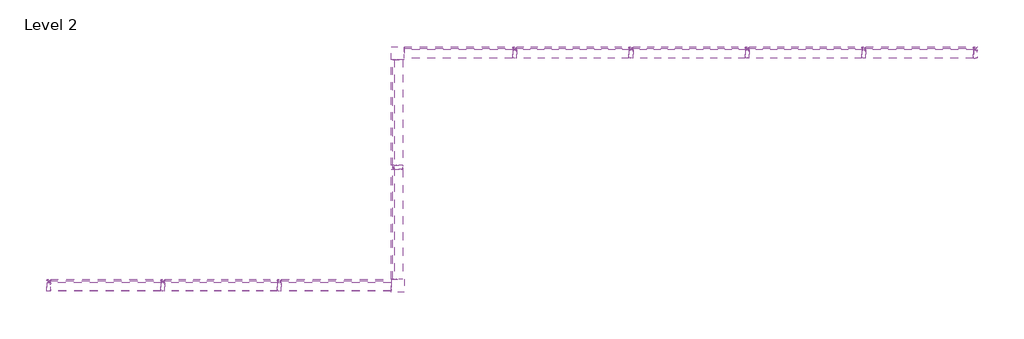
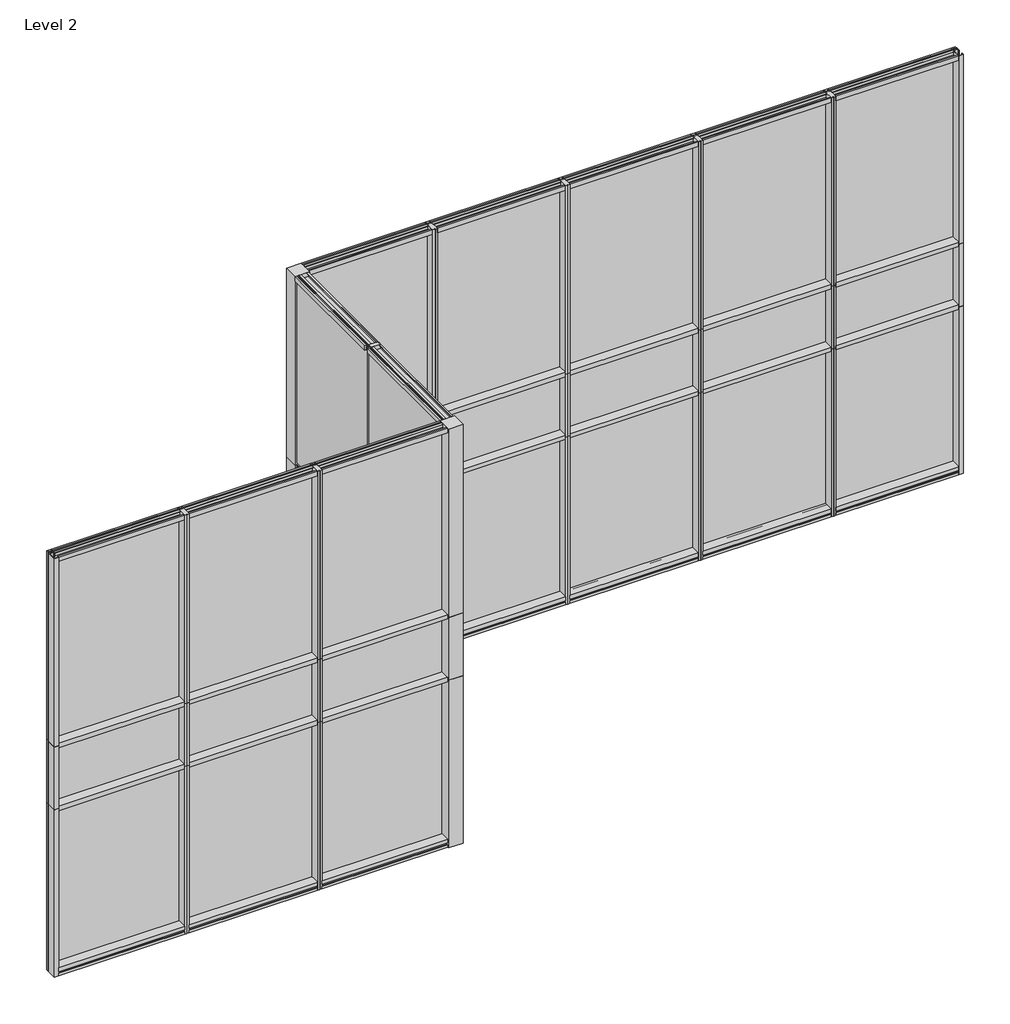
# One storey: 73 members, 30 plates.
"""IFC4 building model written with IfcOpenShell, lengths in millimetres."""

from ifc_helpers import new_model, si_unit, origin, place, context, project, spatial, transform, mapped, element, save
from components import member_aa6b0ad5, member_cb5fe1db, member_a9b10072, member_d3c65e58, member_986474d6, member_3b08af80, rectangular_mullion_3a6611b2, rectangular_mullion_858beba1, rectangular_mullion_c9ef158f, rectangular_mullion_64223f13, rectangular_mullion_937c725f, rectangular_mullion_882669de, rectangular_mullion_6bc6d00b, rectangular_mullion_captured_horizontal_tube_e36badf5, rectangular_mullion_captured_horizontal_tube_9d754ffc, rectangular_mullion_captured_horizontal_tube_6923a6ff, rectangular_mullion_captured_horizontal_tube_73ebac43, rectangular_mullion_captured_horizontal_tube_f31e0b34, rectangular_mullion_captured_open_back_cc8713bb, rectangular_mullion_captured_open_back_95a6e40a, rectangular_mullion_captured_open_back_d715ee20, rectangular_mullion_captured_open_back_de788541, rectangular_mullion_captured_open_back_5af97a0e, rectangular_mullion_captured_open_back_1440805d, rectangular_mullion_captured_open_back_d6f5ffe3, rectangular_mullion_captured_open_back_b7547889, rectangular_mullion_captured_open_back_bbfb2c0f, rectangular_mullion_captured_open_back_40401035, rectangular_mullion_captured_open_back_3d0f3a1e, rectangular_mullion_captured_open_back_60071de4, rectangular_mullion_captured_vertical_stack_a3d0fc89, rectangular_mullion_captured_vertical_stack_e6b217ad, rectangular_mullion_captured_vertical_stack_28bbe6cc, rectangular_mullion_ssg_horizontal_tube_914c9095, rectangular_mullion_ssg_horizontal_tube_d552dfa0, rectangular_mullion_ssg_vertical_stack_41dd6339, rectangular_mullion_ssg_vertical_stack_c531deef, rectangular_mullion_ssg_vertical_stack_b657639e, system_panel_glazed_bad1c57b, system_panel_glazed_a18a3faf, system_panel_glazed_540ba77c, system_panel_glazed_bac47144, system_panel_glazed_1e6a4927, system_panel_glazed_8a131d30, system_panel_glazed_de2e3ea7, system_panel_glazed_4116d66b, system_panel_glazed_8df21279, system_panel_glazed_a648d7df, system_panel_glazed_71094098, system_panel_glazed_069e6351, system_panel_glazed_709e4807, system_panel_glazed_40d013d5, system_panel_glazed_d21a083e, system_panel_glazed_3294a933, system_panel_glazed_46c4b1e2, system_panel_glazed_53a11c7e, system_panel_glazed_89300687, system_panel_glazed_cd5425ed, system_panel_glazed_e6c535d0

model = new_model("IFC4")

# Units and contexts
model_context = context("Model", 3, world=origin())
ifc_project = project(units=[si_unit("LENGTHUNIT", "METRE", prefix="MILLI")], contexts=[model_context])

# Site, building, storey
site = spatial("IfcSite", under=ifc_project)
building = spatial("IfcBuilding", under=site)
storey = spatial("IfcBuildingStorey", under=building, Name="Level 2", Elevation=3048.0)

# Members
placement = place(None, origin())
member_shape = member_aa6b0ad5(model_context)
element("IfcMember", 1, ObjectType="Quad Corner Mullion : 5\" x 5\" Quad Corner", at=placement, inside=storey, context=model_context, shape_type="MappedRepresentation", body=[
    mapped(member_shape, transform((3333.37735, 5420.4369427, 8534.4), x_axis=(0.0, 1.0, 0.0), y_axis=(1.0, 0.0, 0.0), z_axis=(0.0, 0.0, -1.0))),
])
member_2_shape = member_cb5fe1db(model_context)
element("IfcMember", 2, ObjectType="Quad Corner Mullion : 5\" x 5\" Quad Corner", at=placement, inside=storey, context=model_context, shape_type="MappedRepresentation", body=[
    mapped(member_2_shape, transform((3333.37735, 5420.4369427, 6096.0), x_axis=(0.0, 1.0, 0.0), y_axis=(1.0, 0.0, 0.0), z_axis=(0.0, 0.0, -1.0))),
])
member_3_shape = member_a9b10072(model_context)
element("IfcMember", 3, ObjectType="Quad Corner Mullion : 5\" x 5\" Quad Corner", at=placement, inside=storey, context=model_context, shape_type="MappedRepresentation", body=[
    mapped(member_3_shape, transform((3333.37735, 1762.8369427, 6096.0), x_axis=(1.0, 0.0, 0.0), y_axis=(0.0, -1.0, 0.0), z_axis=(0.0, 0.0, -1.0))),
])
member_4_shape = member_d3c65e58(model_context)
element("IfcMember", 4, ObjectType="Quad Corner Mullion : 5\" x 5\" Quad Corner", at=placement, inside=storey, context=model_context, shape_type="MappedRepresentation", body=[
    mapped(member_4_shape, transform((3333.37735, 1762.8369427, 9448.8), x_axis=(1.0, 0.0, 0.0), y_axis=(0.0, -1.0, 0.0), z_axis=(0.0, 0.0, -1.0))),
])
member_5_shape = member_986474d6(model_context)
element("IfcMember", 5, ObjectType="Quad Corner Mullion : 5\" x 5\" Quad Corner", at=placement, inside=storey, context=model_context, shape_type="MappedRepresentation", body=[
    mapped(member_5_shape, transform((3333.37735, 1762.8369427, 8534.4), x_axis=(1.0, 0.0, 0.0), y_axis=(0.0, -1.0, 0.0), z_axis=(0.0, 0.0, -1.0))),
])
member_6_shape = member_3b08af80(model_context)
element("IfcMember", 6, ObjectType="Quad Corner Mullion : 5\" x 5\" Quad Corner", at=placement, inside=storey, context=model_context, shape_type="MappedRepresentation", body=[
    mapped(member_6_shape, transform((3333.37735, 5420.4369427, 9448.8), x_axis=(0.0, 1.0, 0.0), y_axis=(1.0, 0.0, 0.0), z_axis=(0.0, 0.0, -1.0))),
])
rectangular_mullion_shape = rectangular_mullion_3a6611b2(model_context)
element("IfcMember", 7, ObjectType="Rectangular Mullion : Captured Chicken Head Stack", at=placement, inside=storey, context=model_context, shape_type="MappedRepresentation", body=[
    mapped(rectangular_mullion_shape, transform((7064.0377322, 5420.4369427, 6096.0), x_axis=(0.0, 0.0, -1.0), y_axis=(0.0, -1.0, 0.0), z_axis=(-1.0, 0.0, 0.0))),
])
element("IfcMember", 8, ObjectType="Rectangular Mullion : Captured Chicken Head Stack", at=placement, inside=storey, context=model_context, shape_type="MappedRepresentation", body=[
    mapped(rectangular_mullion_shape, transform((5235.2377322, 5420.4369427, 6096.0), x_axis=(0.0, 0.0, -1.0), y_axis=(0.0, -1.0, 0.0), z_axis=(-1.0, 0.0, 0.0))),
])
element("IfcMember", 9, ObjectType="Rectangular Mullion : Captured Chicken Head Stack", at=placement, inside=storey, context=model_context, shape_type="MappedRepresentation", body=[
    mapped(rectangular_mullion_shape, transform((8892.8377322, 5420.4369427, 6096.0), x_axis=(0.0, 0.0, -1.0), y_axis=(0.0, -1.0, 0.0), z_axis=(-1.0, 0.0, 0.0))),
])
element("IfcMember", 10, ObjectType="Rectangular Mullion : Captured Chicken Head Stack", at=placement, inside=storey, context=model_context, shape_type="MappedRepresentation", body=[
    mapped(rectangular_mullion_shape, transform((-292.4520837, 1762.8369427, 6096.0), x_axis=(0.0, 0.0, -1.0), y_axis=(0.0, -1.0, 0.0), z_axis=(-1.0, 0.0, 0.0))),
])
rectangular_mullion_2_shape = rectangular_mullion_858beba1(model_context)
element("IfcMember", 11, ObjectType="Rectangular Mullion : Captured Chicken Head Stack", at=placement, inside=storey, context=model_context, shape_type="MappedRepresentation", body=[
    mapped(rectangular_mullion_2_shape, transform((-2089.5020837, 1762.8369427, 6096.0), x_axis=(0.0, 0.0, -1.0), y_axis=(0.0, -1.0, 0.0), z_axis=(-1.0, 0.0, 0.0))),
])
rectangular_mullion_3_shape = rectangular_mullion_c9ef158f(model_context)
element("IfcMember", 12, ObjectType="Rectangular Mullion : Captured Chicken Head Stack", at=placement, inside=storey, context=model_context, shape_type="MappedRepresentation", body=[
    mapped(rectangular_mullion_3_shape, transform((10721.6377322, 5420.4369427, 6096.0), x_axis=(0.0, 0.0, -1.0), y_axis=(0.0, -1.0, 0.0), z_axis=(-1.0, 0.0, 0.0))),
])
rectangular_mullion_4_shape = rectangular_mullion_64223f13(model_context)
element("IfcMember", 13, ObjectType="Rectangular Mullion : Captured Chicken Head Stack", at=placement, inside=storey, context=model_context, shape_type="MappedRepresentation", body=[
    mapped(rectangular_mullion_4_shape, transform((3466.72735, 5420.4369427, 6096.0), x_axis=(0.0, 0.0, -1.0), y_axis=(0.0, -1.0, 0.0), z_axis=(-1.0, 0.0, 0.0))),
])
rectangular_mullion_5_shape = rectangular_mullion_937c725f(model_context)
element("IfcMember", 14, ObjectType="Rectangular Mullion : Captured Chicken Head Stack", at=placement, inside=storey, context=model_context, shape_type="MappedRepresentation", body=[
    mapped(rectangular_mullion_5_shape, transform((1536.3479163, 1762.8369427, 6096.0), x_axis=(0.0, 0.0, -1.0), y_axis=(0.0, -1.0, 0.0), z_axis=(-1.0, 0.0, 0.0))),
])
rectangular_mullion_6_shape = rectangular_mullion_882669de(model_context)
element("IfcMember", 15, ObjectType="Rectangular Mullion : SSG Chicken Head Stack", at=placement, inside=storey, context=model_context, shape_type="MappedRepresentation", body=[
    mapped(rectangular_mullion_6_shape, transform((3333.37735, 1832.6869427, 6096.0), x_axis=(0.0, 0.0, -1.0), y_axis=(1.0, 0.0, 0.0), z_axis=(0.0, -1.0, 0.0))),
])
rectangular_mullion_7_shape = rectangular_mullion_6bc6d00b(model_context)
element("IfcMember", 16, ObjectType="Rectangular Mullion : SSG Chicken Head Stack", at=placement, inside=storey, context=model_context, shape_type="MappedRepresentation", body=[
    mapped(rectangular_mullion_7_shape, transform((3333.37735, 3623.4075089, 6096.0), x_axis=(0.0, 0.0, -1.0), y_axis=(1.0, 0.0, 0.0), z_axis=(0.0, -1.0, 0.0))),
])
rectangular_mullion_captured_horizontal_tube_shape = rectangular_mullion_captured_horizontal_tube_e36badf5(model_context)
element("IfcMember", 17, ObjectType="Rectangular Mullion : Captured Horizontal Tube", at=placement, inside=storey, context=model_context, shape_type="MappedRepresentation", body=[
    mapped(rectangular_mullion_captured_horizontal_tube_shape, transform((8829.317166, 5420.4369427, 8534.4), x_axis=(0.0, 0.0, 1.0), y_axis=(0.0, -1.0, 0.0), z_axis=(1.0, 0.0, 0.0))),
])
element("IfcMember", 18, ObjectType="Rectangular Mullion : Captured Horizontal Tube", at=placement, inside=storey, context=model_context, shape_type="MappedRepresentation", body=[
    mapped(rectangular_mullion_captured_horizontal_tube_shape, transform((7000.517166, 5420.4369427, 8534.4), x_axis=(0.0, 0.0, 1.0), y_axis=(0.0, -1.0, 0.0), z_axis=(1.0, 0.0, 0.0))),
])
element("IfcMember", 19, ObjectType="Rectangular Mullion : Captured Horizontal Tube", at=placement, inside=storey, context=model_context, shape_type="MappedRepresentation", body=[
    mapped(rectangular_mullion_captured_horizontal_tube_shape, transform((10658.117166, 5420.4369427, 8534.4), x_axis=(0.0, 0.0, 1.0), y_axis=(0.0, -1.0, 0.0), z_axis=(1.0, 0.0, 0.0))),
])
element("IfcMember", 20, ObjectType="Rectangular Mullion : Captured Horizontal Tube", at=placement, inside=storey, context=model_context, shape_type="MappedRepresentation", body=[
    mapped(rectangular_mullion_captured_horizontal_tube_shape, transform((7000.517166, 5420.4369427, 9448.8), x_axis=(0.0, 0.0, 1.0), y_axis=(0.0, -1.0, 0.0), z_axis=(1.0, 0.0, 0.0))),
])
element("IfcMember", 21, ObjectType="Rectangular Mullion : Captured Horizontal Tube", at=placement, inside=storey, context=model_context, shape_type="MappedRepresentation", body=[
    mapped(rectangular_mullion_captured_horizontal_tube_shape, transform((8829.317166, 5420.4369427, 9448.8), x_axis=(0.0, 0.0, 1.0), y_axis=(0.0, -1.0, 0.0), z_axis=(1.0, 0.0, 0.0))),
])
element("IfcMember", 22, ObjectType="Rectangular Mullion : Captured Horizontal Tube", at=placement, inside=storey, context=model_context, shape_type="MappedRepresentation", body=[
    mapped(rectangular_mullion_captured_horizontal_tube_shape, transform((10658.117166, 5420.4369427, 9448.8), x_axis=(0.0, 0.0, 1.0), y_axis=(0.0, -1.0, 0.0), z_axis=(1.0, 0.0, 0.0))),
])
element("IfcMember", 23, ObjectType="Rectangular Mullion : Captured Horizontal Tube", at=placement, inside=storey, context=model_context, shape_type="MappedRepresentation", body=[
    mapped(rectangular_mullion_captured_horizontal_tube_shape, transform((1472.82735, 1762.8369427, 8534.4), x_axis=(0.0, 0.0, 1.0), y_axis=(0.0, -1.0, 0.0), z_axis=(1.0, 0.0, 0.0))),
])
element("IfcMember", 24, ObjectType="Rectangular Mullion : Captured Horizontal Tube", at=placement, inside=storey, context=model_context, shape_type="MappedRepresentation", body=[
    mapped(rectangular_mullion_captured_horizontal_tube_shape, transform((1472.82735, 1762.8369427, 9448.8), x_axis=(0.0, 0.0, 1.0), y_axis=(0.0, -1.0, 0.0), z_axis=(1.0, 0.0, 0.0))),
])
rectangular_mullion_captured_horizontal_tube_2_shape = rectangular_mullion_captured_horizontal_tube_9d754ffc(model_context)
element("IfcMember", 25, ObjectType="Rectangular Mullion : Captured Horizontal Tube", at=placement, inside=storey, context=model_context, shape_type="MappedRepresentation", body=[
    mapped(rectangular_mullion_captured_horizontal_tube_2_shape, transform((-355.97265, 1762.8369427, 8534.4), x_axis=(0.0, 0.0, 1.0), y_axis=(0.0, -1.0, 0.0), z_axis=(1.0, 0.0, 0.0))),
])
element("IfcMember", 26, ObjectType="Rectangular Mullion : Captured Horizontal Tube", at=placement, inside=storey, context=model_context, shape_type="MappedRepresentation", body=[
    mapped(rectangular_mullion_captured_horizontal_tube_2_shape, transform((-355.97265, 1762.8369427, 9448.8), x_axis=(0.0, 0.0, 1.0), y_axis=(0.0, -1.0, 0.0), z_axis=(1.0, 0.0, 0.0))),
])
rectangular_mullion_captured_horizontal_tube_3_shape = rectangular_mullion_captured_horizontal_tube_6923a6ff(model_context)
element("IfcMember", 27, ObjectType="Rectangular Mullion : Captured Horizontal Tube", at=placement, inside=storey, context=model_context, shape_type="MappedRepresentation", body=[
    mapped(rectangular_mullion_captured_horizontal_tube_3_shape, transform((12413.8567838, 5420.4369427, 8534.4), x_axis=(0.0, 0.0, 1.0), y_axis=(0.0, -1.0, 0.0), z_axis=(1.0, 0.0, 0.0))),
])
element("IfcMember", 28, ObjectType="Rectangular Mullion : Captured Horizontal Tube", at=placement, inside=storey, context=model_context, shape_type="MappedRepresentation", body=[
    mapped(rectangular_mullion_captured_horizontal_tube_3_shape, transform((12413.8567838, 5420.4369427, 9448.8), x_axis=(0.0, 0.0, 1.0), y_axis=(0.0, -1.0, 0.0), z_axis=(1.0, 0.0, 0.0))),
])
rectangular_mullion_captured_horizontal_tube_4_shape = rectangular_mullion_captured_horizontal_tube_73ebac43(model_context)
element("IfcMember", 29, ObjectType="Rectangular Mullion : Captured Horizontal Tube", at=placement, inside=storey, context=model_context, shape_type="MappedRepresentation", body=[
    mapped(rectangular_mullion_captured_horizontal_tube_4_shape, transform((5171.717166, 5420.4369427, 8534.4), x_axis=(0.0, 0.0, 1.0), y_axis=(0.0, -1.0, 0.0), z_axis=(1.0, 0.0, 0.0))),
])
element("IfcMember", 30, ObjectType="Rectangular Mullion : Captured Horizontal Tube", at=placement, inside=storey, context=model_context, shape_type="MappedRepresentation", body=[
    mapped(rectangular_mullion_captured_horizontal_tube_4_shape, transform((5171.717166, 5420.4369427, 9448.8), x_axis=(0.0, 0.0, 1.0), y_axis=(0.0, -1.0, 0.0), z_axis=(1.0, 0.0, 0.0))),
])
rectangular_mullion_captured_horizontal_tube_5_shape = rectangular_mullion_captured_horizontal_tube_f31e0b34(model_context)
element("IfcMember", 31, ObjectType="Rectangular Mullion : Captured Horizontal Tube", at=placement, inside=storey, context=model_context, shape_type="MappedRepresentation", body=[
    mapped(rectangular_mullion_captured_horizontal_tube_5_shape, transform((3263.52735, 1762.8369427, 8534.4), x_axis=(0.0, 0.0, 1.0), y_axis=(0.0, -1.0, 0.0), z_axis=(1.0, 0.0, 0.0))),
])
element("IfcMember", 32, ObjectType="Rectangular Mullion : Captured Horizontal Tube", at=placement, inside=storey, context=model_context, shape_type="MappedRepresentation", body=[
    mapped(rectangular_mullion_captured_horizontal_tube_5_shape, transform((3263.52735, 1762.8369427, 9448.8), x_axis=(0.0, 0.0, 1.0), y_axis=(0.0, -1.0, 0.0), z_axis=(1.0, 0.0, 0.0))),
])
rectangular_mullion_captured_open_back_shape = rectangular_mullion_captured_open_back_cc8713bb(model_context)
element("IfcMember", 33, ObjectType="Rectangular Mullion : Captured Open Back", at=placement, inside=storey, context=model_context, shape_type="MappedRepresentation", body=[
    mapped(rectangular_mullion_captured_open_back_shape, transform((12477.37735, 5420.4369427, 8534.4), x_axis=(1.0, 0.0, 0.0), y_axis=(0.0, -1.0, 0.0), z_axis=(0.0, 0.0, -1.0))),
])
rectangular_mullion_captured_open_back_2_shape = rectangular_mullion_captured_open_back_95a6e40a(model_context)
element("IfcMember", 34, ObjectType="Rectangular Mullion : Captured Open Back", at=placement, inside=storey, context=model_context, shape_type="MappedRepresentation", body=[
    mapped(rectangular_mullion_captured_open_back_2_shape, transform((12477.37735, 5420.4369427, 6096.0), x_axis=(1.0, 0.0, 0.0), y_axis=(0.0, -1.0, 0.0), z_axis=(0.0, 0.0, -1.0))),
])
rectangular_mullion_captured_open_back_3_shape = rectangular_mullion_captured_open_back_d715ee20(model_context)
element("IfcMember", 35, ObjectType="Rectangular Mullion : Captured Open Back", at=placement, inside=storey, context=model_context, shape_type="MappedRepresentation", body=[
    mapped(rectangular_mullion_captured_open_back_3_shape, transform((-2153.02265, 1762.8369427, 8534.4), x_axis=(-1.0, 0.0, 0.0), y_axis=(0.0, -1.0, 0.0), z_axis=(0.0, 0.0, 1.0))),
])
rectangular_mullion_captured_open_back_4_shape = rectangular_mullion_captured_open_back_de788541(model_context)
element("IfcMember", 36, ObjectType="Rectangular Mullion : Captured Open Back", at=placement, inside=storey, context=model_context, shape_type="MappedRepresentation", body=[
    mapped(rectangular_mullion_captured_open_back_4_shape, transform((-2153.02265, 1762.8369427, 9448.8), x_axis=(-1.0, 0.0, 0.0), y_axis=(0.0, -1.0, 0.0), z_axis=(0.0, 0.0, 1.0))),
])
rectangular_mullion_captured_open_back_5_shape = rectangular_mullion_captured_open_back_5af97a0e(model_context)
element("IfcMember", 37, ObjectType="Rectangular Mullion : Captured Open Back", at=placement, inside=storey, context=model_context, shape_type="MappedRepresentation", body=[
    mapped(rectangular_mullion_captured_open_back_5_shape, transform((1472.82735, 1762.8369427, 12192.0), x_axis=(0.0, 0.0, 1.0), y_axis=(0.0, -1.0, 0.0), z_axis=(1.0, 0.0, 0.0))),
])
element("IfcMember", 38, ObjectType="Rectangular Mullion : Captured Open Back", at=placement, inside=storey, context=model_context, shape_type="MappedRepresentation", body=[
    mapped(rectangular_mullion_captured_open_back_5_shape, transform((8829.317166, 5420.4369427, 12192.0), x_axis=(0.0, 0.0, 1.0), y_axis=(0.0, -1.0, 0.0), z_axis=(1.0, 0.0, 0.0))),
])
element("IfcMember", 39, ObjectType="Rectangular Mullion : Captured Open Back", at=placement, inside=storey, context=model_context, shape_type="MappedRepresentation", body=[
    mapped(rectangular_mullion_captured_open_back_5_shape, transform((10658.117166, 5420.4369427, 12192.0), x_axis=(0.0, 0.0, 1.0), y_axis=(0.0, -1.0, 0.0), z_axis=(1.0, 0.0, 0.0))),
])
element("IfcMember", 40, ObjectType="Rectangular Mullion : Captured Open Back", at=placement, inside=storey, context=model_context, shape_type="MappedRepresentation", body=[
    mapped(rectangular_mullion_captured_open_back_5_shape, transform((7000.517166, 5420.4369427, 12192.0), x_axis=(0.0, 0.0, 1.0), y_axis=(0.0, -1.0, 0.0), z_axis=(1.0, 0.0, 0.0))),
])
rectangular_mullion_captured_open_back_6_shape = rectangular_mullion_captured_open_back_1440805d(model_context)
element("IfcMember", 41, ObjectType="Rectangular Mullion : Captured Open Back", at=placement, inside=storey, context=model_context, shape_type="MappedRepresentation", body=[
    mapped(rectangular_mullion_captured_open_back_6_shape, transform((-355.97265, 1762.8369427, 12192.0), x_axis=(0.0, 0.0, 1.0), y_axis=(0.0, -1.0, 0.0), z_axis=(1.0, 0.0, 0.0))),
])
rectangular_mullion_captured_open_back_7_shape = rectangular_mullion_captured_open_back_d6f5ffe3(model_context)
element("IfcMember", 42, ObjectType="Rectangular Mullion : Captured Open Back", at=placement, inside=storey, context=model_context, shape_type="MappedRepresentation", body=[
    mapped(rectangular_mullion_captured_open_back_7_shape, transform((-2153.02265, 1762.8369427, 12192.0), x_axis=(-1.0, 0.0, 0.0), y_axis=(0.0, -1.0, 0.0), z_axis=(0.0, 0.0, 1.0))),
])
rectangular_mullion_captured_open_back_8_shape = rectangular_mullion_captured_open_back_b7547889(model_context)
element("IfcMember", 43, ObjectType="Rectangular Mullion : Captured Open Back", at=placement, inside=storey, context=model_context, shape_type="MappedRepresentation", body=[
    mapped(rectangular_mullion_captured_open_back_8_shape, transform((12413.8567838, 5420.4369427, 12192.0), x_axis=(0.0, 0.0, 1.0), y_axis=(0.0, -1.0, 0.0), z_axis=(1.0, 0.0, 0.0))),
])
rectangular_mullion_captured_open_back_9_shape = rectangular_mullion_captured_open_back_bbfb2c0f(model_context)
element("IfcMember", 44, ObjectType="Rectangular Mullion : Captured Open Back", at=placement, inside=storey, context=model_context, shape_type="MappedRepresentation", body=[
    mapped(rectangular_mullion_captured_open_back_9_shape, transform((12477.37735, 5420.4369427, 9448.8), x_axis=(1.0, 0.0, 0.0), y_axis=(0.0, -1.0, 0.0), z_axis=(0.0, 0.0, -1.0))),
])
rectangular_mullion_captured_open_back_10_shape = rectangular_mullion_captured_open_back_40401035(model_context)
element("IfcMember", 45, ObjectType="Rectangular Mullion : Captured Open Back", at=placement, inside=storey, context=model_context, shape_type="MappedRepresentation", body=[
    mapped(rectangular_mullion_captured_open_back_10_shape, transform((5171.717166, 5420.4369427, 12192.0), x_axis=(0.0, 0.0, 1.0), y_axis=(0.0, -1.0, 0.0), z_axis=(1.0, 0.0, 0.0))),
])
rectangular_mullion_captured_open_back_11_shape = rectangular_mullion_captured_open_back_3d0f3a1e(model_context)
element("IfcMember", 46, ObjectType="Rectangular Mullion : Captured Open Back", at=placement, inside=storey, context=model_context, shape_type="MappedRepresentation", body=[
    mapped(rectangular_mullion_captured_open_back_11_shape, transform((3263.52735, 1762.8369427, 12192.0), x_axis=(0.0, 0.0, 1.0), y_axis=(0.0, -1.0, 0.0), z_axis=(1.0, 0.0, 0.0))),
])
element("IfcMember", 47, ObjectType="Rectangular Mullion : Captured Open Back", at=placement, inside=storey, context=model_context, shape_type="MappedRepresentation", body=[
    mapped(rectangular_mullion_captured_open_back_11_shape, transform((3333.37735, 3559.8869427, 12192.0), x_axis=(0.0, 0.0, 1.0), y_axis=(1.0, 0.0, 0.0), z_axis=(0.0, 1.0, 0.0))),
])
rectangular_mullion_captured_open_back_12_shape = rectangular_mullion_captured_open_back_60071de4(model_context)
element("IfcMember", 48, ObjectType="Rectangular Mullion : Captured Open Back", at=placement, inside=storey, context=model_context, shape_type="MappedRepresentation", body=[
    mapped(rectangular_mullion_captured_open_back_12_shape, transform((3333.37735, 5287.0869427, 12192.0), x_axis=(0.0, 0.0, 1.0), y_axis=(1.0, 0.0, 0.0), z_axis=(0.0, 1.0, 0.0))),
])
rectangular_mullion_captured_vertical_stack_shape = rectangular_mullion_captured_vertical_stack_a3d0fc89(model_context)
element("IfcMember", 49, ObjectType="Rectangular Mullion : Captured Vertical Stack", at=placement, inside=storey, context=model_context, shape_type="MappedRepresentation", body=[
    mapped(rectangular_mullion_captured_vertical_stack_shape, transform((10689.867166, 5420.4369427, 8534.4), x_axis=(1.0, 0.0, 0.0), y_axis=(0.0, -1.0, 0.0), z_axis=(0.0, 0.0, -1.0))),
])
element("IfcMember", 50, ObjectType="Rectangular Mullion : Captured Vertical Stack", at=placement, inside=storey, context=model_context, shape_type="MappedRepresentation", body=[
    mapped(rectangular_mullion_captured_vertical_stack_shape, transform((8861.067166, 5420.4369427, 8534.4), x_axis=(1.0, 0.0, 0.0), y_axis=(0.0, -1.0, 0.0), z_axis=(0.0, 0.0, -1.0))),
])
element("IfcMember", 51, ObjectType="Rectangular Mullion : Captured Vertical Stack", at=placement, inside=storey, context=model_context, shape_type="MappedRepresentation", body=[
    mapped(rectangular_mullion_captured_vertical_stack_shape, transform((7032.267166, 5420.4369427, 8534.4), x_axis=(1.0, 0.0, 0.0), y_axis=(0.0, -1.0, 0.0), z_axis=(0.0, 0.0, -1.0))),
])
element("IfcMember", 52, ObjectType="Rectangular Mullion : Captured Vertical Stack", at=placement, inside=storey, context=model_context, shape_type="MappedRepresentation", body=[
    mapped(rectangular_mullion_captured_vertical_stack_shape, transform((5203.467166, 5420.4369427, 8534.4), x_axis=(1.0, 0.0, 0.0), y_axis=(0.0, -1.0, 0.0), z_axis=(0.0, 0.0, -1.0))),
])
element("IfcMember", 53, ObjectType="Rectangular Mullion : Captured Vertical Stack", at=placement, inside=storey, context=model_context, shape_type="MappedRepresentation", body=[
    mapped(rectangular_mullion_captured_vertical_stack_shape, transform((1504.57735, 1762.8369427, 8534.4), x_axis=(1.0, 0.0, 0.0), y_axis=(0.0, -1.0, 0.0), z_axis=(0.0, 0.0, -1.0))),
])
element("IfcMember", 54, ObjectType="Rectangular Mullion : Captured Vertical Stack", at=placement, inside=storey, context=model_context, shape_type="MappedRepresentation", body=[
    mapped(rectangular_mullion_captured_vertical_stack_shape, transform((-324.22265, 1762.8369427, 8534.4), x_axis=(1.0, 0.0, 0.0), y_axis=(0.0, -1.0, 0.0), z_axis=(0.0, 0.0, -1.0))),
])
rectangular_mullion_captured_vertical_stack_2_shape = rectangular_mullion_captured_vertical_stack_e6b217ad(model_context)
element("IfcMember", 55, ObjectType="Rectangular Mullion : Captured Vertical Stack", at=placement, inside=storey, context=model_context, shape_type="MappedRepresentation", body=[
    mapped(rectangular_mullion_captured_vertical_stack_2_shape, transform((10689.867166, 5420.4369427, 6096.0), x_axis=(1.0, 0.0, 0.0), y_axis=(0.0, -1.0, 0.0), z_axis=(0.0, 0.0, -1.0))),
])
element("IfcMember", 56, ObjectType="Rectangular Mullion : Captured Vertical Stack", at=placement, inside=storey, context=model_context, shape_type="MappedRepresentation", body=[
    mapped(rectangular_mullion_captured_vertical_stack_2_shape, transform((8861.067166, 5420.4369427, 6096.0), x_axis=(1.0, 0.0, 0.0), y_axis=(0.0, -1.0, 0.0), z_axis=(0.0, 0.0, -1.0))),
])
element("IfcMember", 57, ObjectType="Rectangular Mullion : Captured Vertical Stack", at=placement, inside=storey, context=model_context, shape_type="MappedRepresentation", body=[
    mapped(rectangular_mullion_captured_vertical_stack_2_shape, transform((7032.267166, 5420.4369427, 6096.0), x_axis=(1.0, 0.0, 0.0), y_axis=(0.0, -1.0, 0.0), z_axis=(0.0, 0.0, -1.0))),
])
element("IfcMember", 58, ObjectType="Rectangular Mullion : Captured Vertical Stack", at=placement, inside=storey, context=model_context, shape_type="MappedRepresentation", body=[
    mapped(rectangular_mullion_captured_vertical_stack_2_shape, transform((5203.467166, 5420.4369427, 6096.0), x_axis=(1.0, 0.0, 0.0), y_axis=(0.0, -1.0, 0.0), z_axis=(0.0, 0.0, -1.0))),
])
element("IfcMember", 59, ObjectType="Rectangular Mullion : Captured Vertical Stack", at=placement, inside=storey, context=model_context, shape_type="MappedRepresentation", body=[
    mapped(rectangular_mullion_captured_vertical_stack_2_shape, transform((1504.57735, 1762.8369427, 6096.0), x_axis=(1.0, 0.0, 0.0), y_axis=(0.0, -1.0, 0.0), z_axis=(0.0, 0.0, -1.0))),
])
element("IfcMember", 60, ObjectType="Rectangular Mullion : Captured Vertical Stack", at=placement, inside=storey, context=model_context, shape_type="MappedRepresentation", body=[
    mapped(rectangular_mullion_captured_vertical_stack_2_shape, transform((-324.22265, 1762.8369427, 6096.0), x_axis=(1.0, 0.0, 0.0), y_axis=(0.0, -1.0, 0.0), z_axis=(0.0, 0.0, -1.0))),
])
rectangular_mullion_captured_vertical_stack_3_shape = rectangular_mullion_captured_vertical_stack_28bbe6cc(model_context)
element("IfcMember", 61, ObjectType="Rectangular Mullion : Captured Vertical Stack", at=placement, inside=storey, context=model_context, shape_type="MappedRepresentation", body=[
    mapped(rectangular_mullion_captured_vertical_stack_3_shape, transform((10689.867166, 5420.4369427, 9448.8), x_axis=(1.0, 0.0, 0.0), y_axis=(0.0, -1.0, 0.0), z_axis=(0.0, 0.0, -1.0))),
])
element("IfcMember", 62, ObjectType="Rectangular Mullion : Captured Vertical Stack", at=placement, inside=storey, context=model_context, shape_type="MappedRepresentation", body=[
    mapped(rectangular_mullion_captured_vertical_stack_3_shape, transform((8861.067166, 5420.4369427, 9448.8), x_axis=(1.0, 0.0, 0.0), y_axis=(0.0, -1.0, 0.0), z_axis=(0.0, 0.0, -1.0))),
])
element("IfcMember", 63, ObjectType="Rectangular Mullion : Captured Vertical Stack", at=placement, inside=storey, context=model_context, shape_type="MappedRepresentation", body=[
    mapped(rectangular_mullion_captured_vertical_stack_3_shape, transform((7032.267166, 5420.4369427, 9448.8), x_axis=(1.0, 0.0, 0.0), y_axis=(0.0, -1.0, 0.0), z_axis=(0.0, 0.0, -1.0))),
])
element("IfcMember", 64, ObjectType="Rectangular Mullion : Captured Vertical Stack", at=placement, inside=storey, context=model_context, shape_type="MappedRepresentation", body=[
    mapped(rectangular_mullion_captured_vertical_stack_3_shape, transform((5203.467166, 5420.4369427, 9448.8), x_axis=(1.0, 0.0, 0.0), y_axis=(0.0, -1.0, 0.0), z_axis=(0.0, 0.0, -1.0))),
])
element("IfcMember", 65, ObjectType="Rectangular Mullion : Captured Vertical Stack", at=placement, inside=storey, context=model_context, shape_type="MappedRepresentation", body=[
    mapped(rectangular_mullion_captured_vertical_stack_3_shape, transform((1504.57735, 1762.8369427, 9448.8), x_axis=(1.0, 0.0, 0.0), y_axis=(0.0, -1.0, 0.0), z_axis=(0.0, 0.0, -1.0))),
])
element("IfcMember", 66, ObjectType="Rectangular Mullion : Captured Vertical Stack", at=placement, inside=storey, context=model_context, shape_type="MappedRepresentation", body=[
    mapped(rectangular_mullion_captured_vertical_stack_3_shape, transform((-324.22265, 1762.8369427, 9448.8), x_axis=(1.0, 0.0, 0.0), y_axis=(0.0, -1.0, 0.0), z_axis=(0.0, 0.0, -1.0))),
])
rectangular_mullion_ssg_horizontal_tube_shape = rectangular_mullion_ssg_horizontal_tube_914c9095(model_context)
element("IfcMember", 67, ObjectType="Rectangular Mullion : SSG Horizontal Tube", at=placement, inside=storey, context=model_context, shape_type="MappedRepresentation", body=[
    mapped(rectangular_mullion_ssg_horizontal_tube_shape, transform((3333.37735, 3559.8869427, 9448.8), x_axis=(0.0, 0.0, 1.0), y_axis=(1.0, 0.0, 0.0), z_axis=(0.0, 1.0, 0.0))),
])
element("IfcMember", 68, ObjectType="Rectangular Mullion : SSG Horizontal Tube", at=placement, inside=storey, context=model_context, shape_type="MappedRepresentation", body=[
    mapped(rectangular_mullion_ssg_horizontal_tube_shape, transform((3333.37735, 3559.8869427, 8534.4), x_axis=(0.0, 0.0, 1.0), y_axis=(1.0, 0.0, 0.0), z_axis=(0.0, 1.0, 0.0))),
])
rectangular_mullion_ssg_horizontal_tube_2_shape = rectangular_mullion_ssg_horizontal_tube_d552dfa0(model_context)
element("IfcMember", 69, ObjectType="Rectangular Mullion : SSG Horizontal Tube", at=placement, inside=storey, context=model_context, shape_type="MappedRepresentation", body=[
    mapped(rectangular_mullion_ssg_horizontal_tube_2_shape, transform((3333.37735, 5287.0869427, 9448.8), x_axis=(0.0, 0.0, 1.0), y_axis=(1.0, 0.0, 0.0), z_axis=(0.0, 1.0, 0.0))),
])
element("IfcMember", 70, ObjectType="Rectangular Mullion : SSG Horizontal Tube", at=placement, inside=storey, context=model_context, shape_type="MappedRepresentation", body=[
    mapped(rectangular_mullion_ssg_horizontal_tube_2_shape, transform((3333.37735, 5287.0869427, 8534.4), x_axis=(0.0, 0.0, 1.0), y_axis=(1.0, 0.0, 0.0), z_axis=(0.0, 1.0, 0.0))),
])
rectangular_mullion_ssg_vertical_stack_shape = rectangular_mullion_ssg_vertical_stack_41dd6339(model_context)
element("IfcMember", 71, ObjectType="Rectangular Mullion : SSG Vertical Stack", at=placement, inside=storey, context=model_context, shape_type="MappedRepresentation", body=[
    mapped(rectangular_mullion_ssg_vertical_stack_shape, transform((3333.37735, 3591.6369427, 8534.4), x_axis=(0.0, 1.0, 0.0), y_axis=(1.0, 0.0, 0.0), z_axis=(0.0, 0.0, -1.0))),
])
rectangular_mullion_ssg_vertical_stack_2_shape = rectangular_mullion_ssg_vertical_stack_c531deef(model_context)
element("IfcMember", 72, ObjectType="Rectangular Mullion : SSG Vertical Stack", at=placement, inside=storey, context=model_context, shape_type="MappedRepresentation", body=[
    mapped(rectangular_mullion_ssg_vertical_stack_2_shape, transform((3333.37735, 3591.6369427, 6096.0), x_axis=(0.0, 1.0, 0.0), y_axis=(1.0, 0.0, 0.0), z_axis=(0.0, 0.0, -1.0))),
])
rectangular_mullion_ssg_vertical_stack_3_shape = rectangular_mullion_ssg_vertical_stack_b657639e(model_context)
element("IfcMember", 73, ObjectType="Rectangular Mullion : SSG Vertical Stack", at=placement, inside=storey, context=model_context, shape_type="MappedRepresentation", body=[
    mapped(rectangular_mullion_ssg_vertical_stack_3_shape, transform((3333.37735, 3591.6369427, 9448.8), x_axis=(0.0, 1.0, 0.0), y_axis=(1.0, 0.0, 0.0), z_axis=(0.0, 0.0, -1.0))),
])

# Plates
system_panel_glazed_shape = system_panel_glazed_bad1c57b(model_context)
element("IfcPlate", 74, ObjectType="System Panel : Glazed", at=placement, inside=storey, context=model_context, shape_type="MappedRepresentation", body=[
    mapped(system_panel_glazed_shape, transform((3333.37735, 2707.404288, 6172.1936616), x_axis=(0.0, 1.0, 0.0), y_axis=(-1.0, 0.0, 0.0), z_axis=(0.0, 0.0, 1.0))),
])
system_panel_glazed_2_shape = system_panel_glazed_a18a3faf(model_context)
element("IfcPlate", 75, ObjectType="System Panel : Glazed", at=placement, inside=storey, context=model_context, shape_type="MappedRepresentation", body=[
    mapped(system_panel_glazed_2_shape, transform((3333.37735, 4444.1292897, 6172.1936616), x_axis=(0.0, 1.0, 0.0), y_axis=(-1.0, 0.0, 0.0), z_axis=(0.0, 0.0, 1.0))),
])
system_panel_glazed_3_shape = system_panel_glazed_540ba77c(model_context)
element("IfcPlate", 76, ObjectType="System Panel : Glazed", at=placement, inside=storey, context=model_context, shape_type="MappedRepresentation", body=[
    mapped(system_panel_glazed_3_shape, transform((-1222.7576163, 1762.8369427, 6204.3471992), x_axis=(1.0, 0.0, 0.0), y_axis=(0.0, 1.0, 0.0), z_axis=(0.0, 0.0, 1.0))),
])
system_panel_glazed_4_shape = system_panel_glazed_bac47144(model_context)
element("IfcPlate", 77, ObjectType="System Panel : Glazed", at=placement, inside=storey, context=model_context, shape_type="MappedRepresentation", body=[
    mapped(system_panel_glazed_4_shape, transform((4323.8916004, 5420.4369427, 6204.3471992), x_axis=(1.0, 0.0, 0.0), y_axis=(0.0, 1.0, 0.0), z_axis=(0.0, 0.0, 1.0))),
])
system_panel_glazed_5_shape = system_panel_glazed_1e6a4927(model_context)
element("IfcPlate", 78, ObjectType="System Panel : Glazed", at=placement, inside=storey, context=model_context, shape_type="MappedRepresentation", body=[
    mapped(system_panel_glazed_5_shape, transform((9775.4571996, 5420.4369427, 6204.3471992), x_axis=(1.0, 0.0, 0.0), y_axis=(0.0, 1.0, 0.0), z_axis=(0.0, 0.0, 1.0))),
])
element("IfcPlate", 79, ObjectType="System Panel : Glazed", at=placement, inside=storey, context=model_context, shape_type="MappedRepresentation", body=[
    mapped(system_panel_glazed_5_shape, transform((7946.6571996, 5420.4369427, 6204.3471992), x_axis=(1.0, 0.0, 0.0), y_axis=(0.0, 1.0, 0.0), z_axis=(0.0, 0.0, 1.0))),
])
element("IfcPlate", 80, ObjectType="System Panel : Glazed", at=placement, inside=storey, context=model_context, shape_type="MappedRepresentation", body=[
    mapped(system_panel_glazed_5_shape, transform((6117.8571996, 5420.4369427, 6204.3471992), x_axis=(1.0, 0.0, 0.0), y_axis=(0.0, 1.0, 0.0), z_axis=(0.0, 0.0, 1.0))),
])
element("IfcPlate", 81, ObjectType="System Panel : Glazed", at=placement, inside=storey, context=model_context, shape_type="MappedRepresentation", body=[
    mapped(system_panel_glazed_5_shape, transform((590.1673837, 1762.8369427, 6204.3471992), x_axis=(1.0, 0.0, 0.0), y_axis=(0.0, 1.0, 0.0), z_axis=(0.0, 0.0, 1.0))),
])
system_panel_glazed_6_shape = system_panel_glazed_8a131d30(model_context)
element("IfcPlate", 82, ObjectType="System Panel : Glazed", at=placement, inside=storey, context=model_context, shape_type="MappedRepresentation", body=[
    mapped(system_panel_glazed_6_shape, transform((2395.2480412, 1762.8369427, 6204.3471992), x_axis=(1.0, 0.0, 0.0), y_axis=(0.0, 1.0, 0.0), z_axis=(0.0, 0.0, 1.0))),
])
system_panel_glazed_7_shape = system_panel_glazed_de2e3ea7(model_context)
element("IfcPlate", 83, ObjectType="System Panel : Glazed", at=placement, inside=storey, context=model_context, shape_type="MappedRepresentation", body=[
    mapped(system_panel_glazed_7_shape, transform((4323.8916004, 5420.4369427, 8556.7913824), x_axis=(1.0, 0.0, 0.0), y_axis=(0.0, 1.0, 0.0), z_axis=(0.0, 0.0, 1.0))),
])
system_panel_glazed_8_shape = system_panel_glazed_4116d66b(model_context)
element("IfcPlate", 84, ObjectType="System Panel : Glazed", at=placement, inside=storey, context=model_context, shape_type="MappedRepresentation", body=[
    mapped(system_panel_glazed_8_shape, transform((6117.8571996, 5420.4369427, 8556.7913824), x_axis=(1.0, 0.0, 0.0), y_axis=(0.0, 1.0, 0.0), z_axis=(0.0, 0.0, 1.0))),
])
element("IfcPlate", 85, ObjectType="System Panel : Glazed", at=placement, inside=storey, context=model_context, shape_type="MappedRepresentation", body=[
    mapped(system_panel_glazed_8_shape, transform((7946.6571996, 5420.4369427, 8556.7913824), x_axis=(1.0, 0.0, 0.0), y_axis=(0.0, 1.0, 0.0), z_axis=(0.0, 0.0, 1.0))),
])
element("IfcPlate", 86, ObjectType="System Panel : Glazed", at=placement, inside=storey, context=model_context, shape_type="MappedRepresentation", body=[
    mapped(system_panel_glazed_8_shape, transform((9775.4571996, 5420.4369427, 8556.7913824), x_axis=(1.0, 0.0, 0.0), y_axis=(0.0, 1.0, 0.0), z_axis=(0.0, 0.0, 1.0))),
])
element("IfcPlate", 87, ObjectType="System Panel : Glazed", at=placement, inside=storey, context=model_context, shape_type="MappedRepresentation", body=[
    mapped(system_panel_glazed_8_shape, transform((590.1673837, 1762.8369427, 8556.7913824), x_axis=(1.0, 0.0, 0.0), y_axis=(0.0, 1.0, 0.0), z_axis=(0.0, 0.0, 1.0))),
])
system_panel_glazed_9_shape = system_panel_glazed_8df21279(model_context)
element("IfcPlate", 88, ObjectType="System Panel : Glazed", at=placement, inside=storey, context=model_context, shape_type="MappedRepresentation", body=[
    mapped(system_panel_glazed_9_shape, transform((-1222.7576163, 1762.8369427, 8556.7913824), x_axis=(1.0, 0.0, 0.0), y_axis=(0.0, 1.0, 0.0), z_axis=(0.0, 0.0, 1.0))),
])
system_panel_glazed_10_shape = system_panel_glazed_a648d7df(model_context)
element("IfcPlate", 89, ObjectType="System Panel : Glazed", at=placement, inside=storey, context=model_context, shape_type="MappedRepresentation", body=[
    mapped(system_panel_glazed_10_shape, transform((2395.2480412, 1762.8369427, 8556.7913824), x_axis=(1.0, 0.0, 0.0), y_axis=(0.0, 1.0, 0.0), z_axis=(0.0, 0.0, 1.0))),
])
system_panel_glazed_11_shape = system_panel_glazed_71094098(model_context)
element("IfcPlate", 90, ObjectType="System Panel : Glazed", at=placement, inside=storey, context=model_context, shape_type="MappedRepresentation", body=[
    mapped(system_panel_glazed_11_shape, transform((11567.7270085, 5420.4369427, 6204.3471992), x_axis=(1.0, 0.0, 0.0), y_axis=(0.0, 1.0, 0.0), z_axis=(0.0, 0.0, 1.0))),
])
system_panel_glazed_12_shape = system_panel_glazed_069e6351(model_context)
element("IfcPlate", 91, ObjectType="System Panel : Glazed", at=placement, inside=storey, context=model_context, shape_type="MappedRepresentation", body=[
    mapped(system_panel_glazed_12_shape, transform((11567.7270085, 5420.4369427, 8556.7913824), x_axis=(1.0, 0.0, 0.0), y_axis=(0.0, 1.0, 0.0), z_axis=(0.0, 0.0, 1.0))),
])
system_panel_glazed_13_shape = system_panel_glazed_709e4807(model_context)
element("IfcPlate", 92, ObjectType="System Panel : Glazed", at=placement, inside=storey, context=model_context, shape_type="MappedRepresentation", body=[
    mapped(system_panel_glazed_13_shape, transform((4323.8916004, 5420.4369427, 9471.1913824), x_axis=(1.0, 0.0, 0.0), y_axis=(0.0, 1.0, 0.0), z_axis=(0.0, 0.0, 1.0))),
])
system_panel_glazed_14_shape = system_panel_glazed_40d013d5(model_context)
element("IfcPlate", 93, ObjectType="System Panel : Glazed", at=placement, inside=storey, context=model_context, shape_type="MappedRepresentation", body=[
    mapped(system_panel_glazed_14_shape, transform((6117.8571996, 5420.4369427, 9471.1913824), x_axis=(1.0, 0.0, 0.0), y_axis=(0.0, 1.0, 0.0), z_axis=(0.0, 0.0, 1.0))),
])
element("IfcPlate", 94, ObjectType="System Panel : Glazed", at=placement, inside=storey, context=model_context, shape_type="MappedRepresentation", body=[
    mapped(system_panel_glazed_14_shape, transform((7946.6571996, 5420.4369427, 9471.1913824), x_axis=(1.0, 0.0, 0.0), y_axis=(0.0, 1.0, 0.0), z_axis=(0.0, 0.0, 1.0))),
])
element("IfcPlate", 95, ObjectType="System Panel : Glazed", at=placement, inside=storey, context=model_context, shape_type="MappedRepresentation", body=[
    mapped(system_panel_glazed_14_shape, transform((9775.4571996, 5420.4369427, 9471.1913824), x_axis=(1.0, 0.0, 0.0), y_axis=(0.0, 1.0, 0.0), z_axis=(0.0, 0.0, 1.0))),
])
element("IfcPlate", 96, ObjectType="System Panel : Glazed", at=placement, inside=storey, context=model_context, shape_type="MappedRepresentation", body=[
    mapped(system_panel_glazed_14_shape, transform((590.1673837, 1762.8369427, 9471.1913824), x_axis=(1.0, 0.0, 0.0), y_axis=(0.0, 1.0, 0.0), z_axis=(0.0, 0.0, 1.0))),
])
system_panel_glazed_15_shape = system_panel_glazed_d21a083e(model_context)
element("IfcPlate", 97, ObjectType="System Panel : Glazed", at=placement, inside=storey, context=model_context, shape_type="MappedRepresentation", body=[
    mapped(system_panel_glazed_15_shape, transform((11567.7270085, 5420.4369427, 9471.1913824), x_axis=(1.0, 0.0, 0.0), y_axis=(0.0, 1.0, 0.0), z_axis=(0.0, 0.0, 1.0))),
])
system_panel_glazed_16_shape = system_panel_glazed_3294a933(model_context)
element("IfcPlate", 98, ObjectType="System Panel : Glazed", at=placement, inside=storey, context=model_context, shape_type="MappedRepresentation", body=[
    mapped(system_panel_glazed_16_shape, transform((-1222.7576163, 1762.8369427, 9471.1913824), x_axis=(1.0, 0.0, 0.0), y_axis=(0.0, 1.0, 0.0), z_axis=(0.0, 0.0, 1.0))),
])
system_panel_glazed_17_shape = system_panel_glazed_46c4b1e2(model_context)
element("IfcPlate", 99, ObjectType="System Panel : Glazed", at=placement, inside=storey, context=model_context, shape_type="MappedRepresentation", body=[
    mapped(system_panel_glazed_17_shape, transform((2395.2480412, 1762.8369427, 9471.1913824), x_axis=(1.0, 0.0, 0.0), y_axis=(0.0, 1.0, 0.0), z_axis=(0.0, 0.0, 1.0))),
])
system_panel_glazed_18_shape = system_panel_glazed_53a11c7e(model_context)
element("IfcPlate", 100, ObjectType="System Panel : Glazed", at=placement, inside=storey, context=model_context, shape_type="MappedRepresentation", body=[
    mapped(system_panel_glazed_18_shape, transform((3333.37735, 2707.404288, 8566.1705663), x_axis=(0.0, 1.0, 0.0), y_axis=(-1.0, 0.0, 0.0), z_axis=(0.0, 0.0, 1.0))),
])
system_panel_glazed_19_shape = system_panel_glazed_89300687(model_context)
element("IfcPlate", 101, ObjectType="System Panel : Glazed", at=placement, inside=storey, context=model_context, shape_type="MappedRepresentation", body=[
    mapped(system_panel_glazed_19_shape, transform((3333.37735, 4444.1292897, 8566.1705663), x_axis=(0.0, 1.0, 0.0), y_axis=(-1.0, 0.0, 0.0), z_axis=(0.0, 0.0, 1.0))),
])
system_panel_glazed_20_shape = system_panel_glazed_cd5425ed(model_context)
element("IfcPlate", 102, ObjectType="System Panel : Glazed", at=placement, inside=storey, context=model_context, shape_type="MappedRepresentation", body=[
    mapped(system_panel_glazed_20_shape, transform((3333.37735, 2707.404288, 9480.5705663), x_axis=(0.0, 1.0, 0.0), y_axis=(-1.0, 0.0, 0.0), z_axis=(0.0, 0.0, 1.0))),
])
system_panel_glazed_21_shape = system_panel_glazed_e6c535d0(model_context)
element("IfcPlate", 103, ObjectType="System Panel : Glazed", at=placement, inside=storey, context=model_context, shape_type="MappedRepresentation", body=[
    mapped(system_panel_glazed_21_shape, transform((3333.37735, 4444.1292897, 9480.5705663), x_axis=(0.0, 1.0, 0.0), y_axis=(-1.0, 0.0, 0.0), z_axis=(0.0, 0.0, 1.0))),
])

save(model, "model.ifc")
